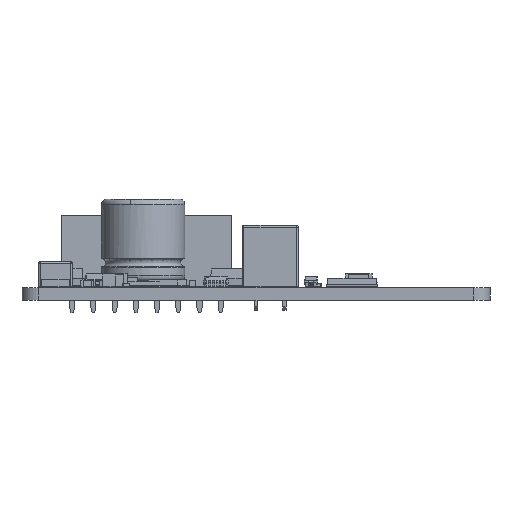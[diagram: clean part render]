
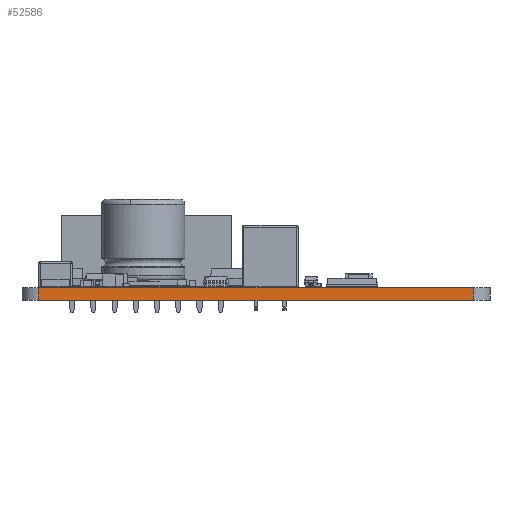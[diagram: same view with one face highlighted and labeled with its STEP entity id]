
A CAD part, left-side view. The second image highlights one B-rep face of the part: STEP entity #52586.
In plain terms, the highlighted planar face has unit normal (-1, 0, 0).
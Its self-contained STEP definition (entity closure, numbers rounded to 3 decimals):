
#51597 = VERTEX_POINT('',#51598);
#51598 = CARTESIAN_POINT('',(100.,-102.,0.));
#51605 = EDGE_CURVE('',#51606,#51597,#51608,.T.);
#51606 = VERTEX_POINT('',#51607);
#51607 = CARTESIAN_POINT('',(100.,-154.,0.));
#51608 = LINE('',#51609,#51610);
#51609 = CARTESIAN_POINT('',(100.,-154.,0.));
#51610 = VECTOR('',#51611,1.);
#51611 = DIRECTION('',(0.,1.,0.));
#52078 = VERTEX_POINT('',#52079);
#52079 = CARTESIAN_POINT('',(100.,-102.,1.51));
#52086 = EDGE_CURVE('',#52087,#52078,#52089,.T.);
#52087 = VERTEX_POINT('',#52088);
#52088 = CARTESIAN_POINT('',(100.,-154.,1.51));
#52089 = LINE('',#52090,#52091);
#52090 = CARTESIAN_POINT('',(100.,-154.,1.51));
#52091 = VECTOR('',#52092,1.);
#52092 = DIRECTION('',(0.,1.,0.));
#52556 = EDGE_CURVE('',#51597,#52078,#52557,.T.);
#52557 = LINE('',#52558,#52559);
#52558 = CARTESIAN_POINT('',(100.,-102.,0.));
#52559 = VECTOR('',#52560,1.);
#52560 = DIRECTION('',(0.,0.,1.));
#52586 = ADVANCED_FACE('',(#52587),#52598,.T.);
#52587 = FACE_BOUND('',#52588,.T.);
#52588 = EDGE_LOOP('',(#52589,#52595,#52596,#52597));
#52589 = ORIENTED_EDGE('',*,*,#52590,.T.);
#52590 = EDGE_CURVE('',#51606,#52087,#52591,.T.);
#52591 = LINE('',#52592,#52593);
#52592 = CARTESIAN_POINT('',(100.,-154.,0.));
#52593 = VECTOR('',#52594,1.);
#52594 = DIRECTION('',(0.,0.,1.));
#52595 = ORIENTED_EDGE('',*,*,#52086,.T.);
#52596 = ORIENTED_EDGE('',*,*,#52556,.F.);
#52597 = ORIENTED_EDGE('',*,*,#51605,.F.);
#52598 = PLANE('',#52599);
#52599 = AXIS2_PLACEMENT_3D('',#52600,#52601,#52602);
#52600 = CARTESIAN_POINT('',(100.,-154.,0.));
#52601 = DIRECTION('',(-1.,0.,0.));
#52602 = DIRECTION('',(0.,1.,0.));
